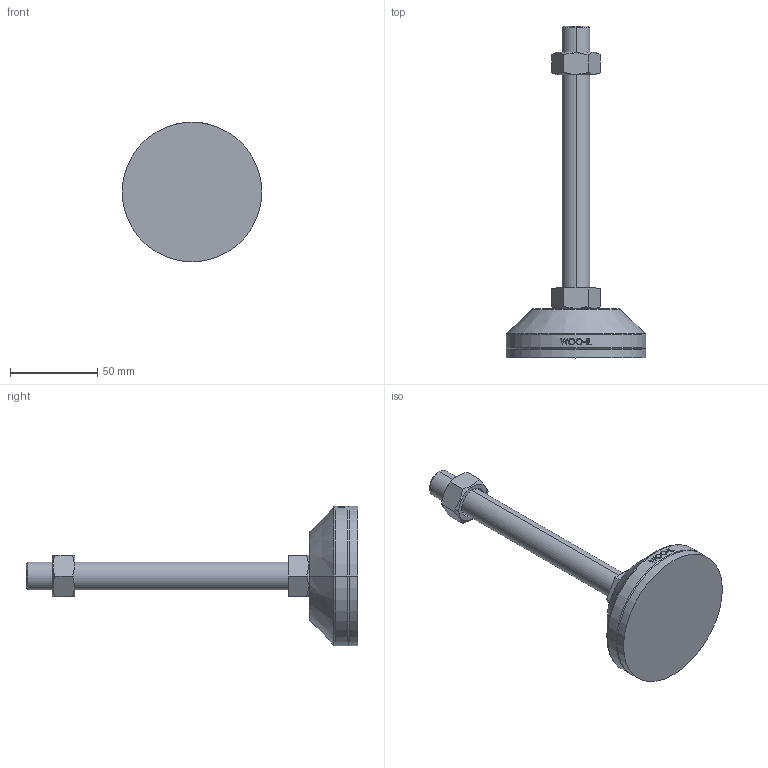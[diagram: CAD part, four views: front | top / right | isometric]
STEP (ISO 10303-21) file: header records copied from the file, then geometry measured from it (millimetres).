
FILE_DESCRIPTION (( 'STEP AP214' ), '1' );
FILE_NAME ('NHNR80-M16-150.step', '2021-01-25T06:21:40', ( '' ), ( '' ), 'SwSTEP 2.0', 'SolidWorks 2019', '' );
FILE_SCHEMA (( 'AUTOMOTIVE_DESIGN' ));
Length unit declared in the file: millimetre
Products named in the file (2): NHNR80-M16-150
Bounding box: 80 x 190 x 80 mm (x, y, z)
Volume: 155902.3 mm3; surface area: 36517.6 mm2
Topology: 4 solids, 4 shells, 105 faces, 239 edges, 152 vertices
Faces by surface type: plane 49, cylinder 18, bspline 16, cone 14, torus 8
Entity records: 4363 total; most frequent: CARTESIAN_POINT 2046, ORIENTED_EDGE 478, DIRECTION 429, EDGE_CURVE 239, AXIS2_PLACEMENT_3D 165, VERTEX_POINT 152, EDGE_LOOP 117, ADVANCED_FACE 105
